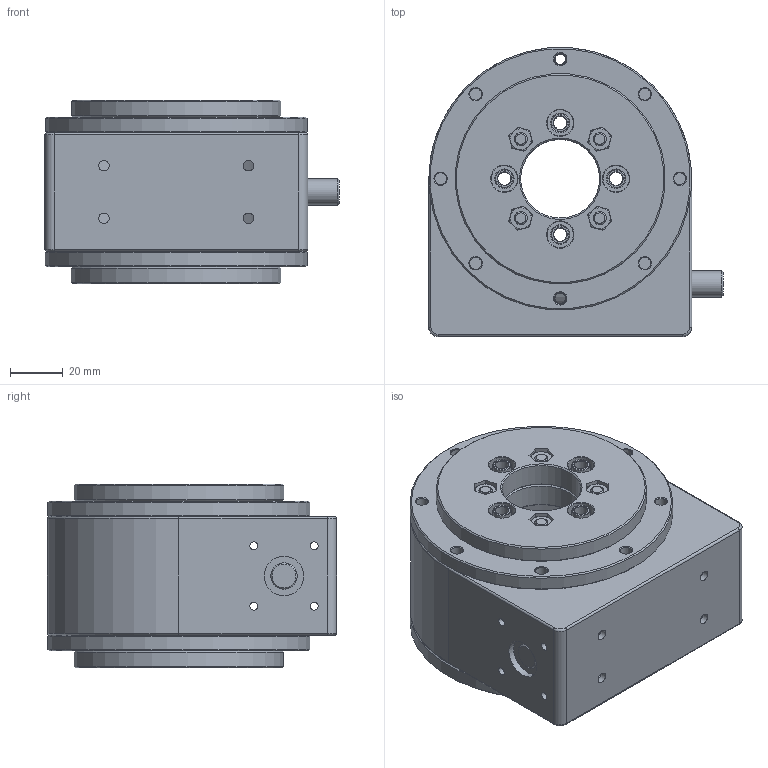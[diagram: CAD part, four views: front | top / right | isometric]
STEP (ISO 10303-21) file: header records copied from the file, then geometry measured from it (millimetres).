
FILE_DESCRIPTION((''),'2;1');
FILE_NAME('I:\Gleitlager\Konstruktion\robolink\Vorserie\RL-D\RL-D Gelenke\Simpel STEP 101\RL-D-30-101-50-low-cost.stp','2015-05-19T11:07:01',('mraak'),(''),'Autodesk Inventor 2013','Autodesk Inventor 2013','');
FILE_SCHEMA(('AUTOMOTIVE_DESIGN { 1 0 10303 214 1 1 1 1 }'));
Length unit declared in the file: millimetre
Products named in the file (8): ___RL-D-30-101-50-00000; ___RL-D-30-0XXXX; ___RL-D-30-X0XXX; PRT-02-30-AL; 10; 9; 1; 5
Assembly tree (14 placements, depth 3):
  ___RL-D-30-101-50-00000
    ___RL-D-30-0XXXX
    ___RL-D-30-X0XXX
    PRT-02-30-AL  x2
      10
      9
      1
      5
Bounding box: 112 x 110 x 70 mm (x, y, z)
Volume: 262177.8 mm3; surface area: 133764.2 mm2
Topology: 22 solids, 22 shells, 841 faces, 1857 edges, 1146 vertices
Faces by surface type: plane 334, cone 282, cylinder 207, torus 18
Full cylindrical faces by diameter (mm): 3 x8, 4 x16, 4.2 x8, 4.5 x16, 5 x24, 7 x24, 8.5 x8, 10 x20, 15 x2, 20 x3, 30 x4, 55 x4, 55.05 x2, 80 x4, 83 x2, 100 x2
Entity records: 8532 total; most frequent: DIRECTION 1522, CARTESIAN_POINT 1383, ORIENTED_EDGE 1082, AXIS2_PLACEMENT_3D 662, EDGE_LOOP 626, EDGE_CURVE 541, VERTEX_POINT 433, FACE_OUTER_BOUND 327
